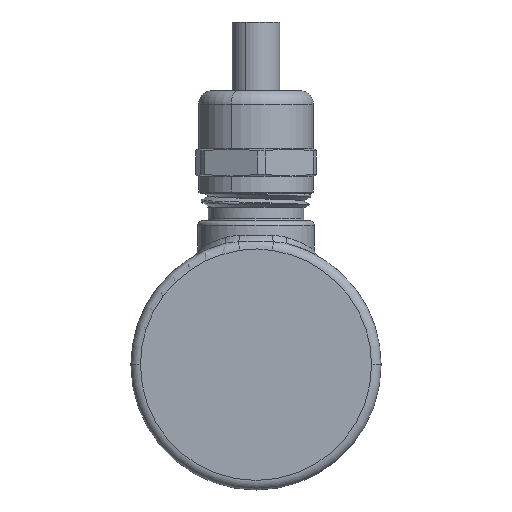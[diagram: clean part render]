
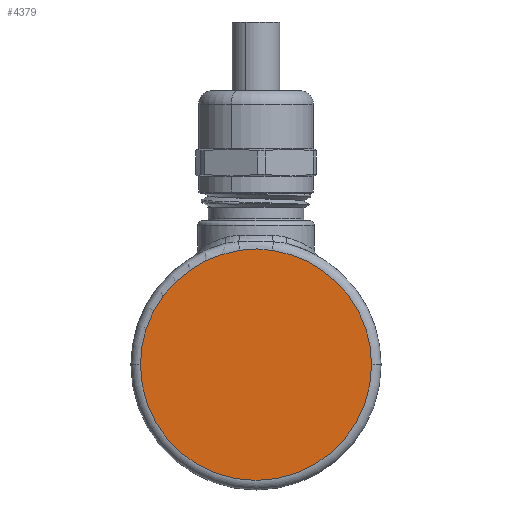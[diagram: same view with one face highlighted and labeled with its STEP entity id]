
A CAD part, front view. The second image highlights one B-rep face of the part: STEP entity #4379.
In plain terms, the highlighted planar face has unit normal (0, -1, 0).
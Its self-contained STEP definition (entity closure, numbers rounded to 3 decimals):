
#231 = CARTESIAN_POINT ( 'NONE',  ( 0., 0., 18.25 ) ) ;
#529 = CARTESIAN_POINT ( 'NONE',  ( 16.85, 0., 0. ) ) ;
#950 = VERTEX_POINT ( 'NONE', #7509 ) ;
#975 = CARTESIAN_POINT ( 'NONE',  ( 0., 0., 0. ) ) ;
#1008 = ORIENTED_EDGE ( 'NONE', *, *, #10752, .T. ) ;
#1050 = CARTESIAN_POINT ( 'NONE',  ( 0., 0., 0. ) ) ;
#1267 = CARTESIAN_POINT ( 'NONE',  ( 1.584, 0., 16.798 ) ) ;
#1500 = AXIS2_PLACEMENT_3D ( 'NONE', #975, #12517, #6257 ) ;
#1807 = EDGE_CURVE ( 'NONE', #13285, #10069, #10134, .T. ) ;
#1889 = DIRECTION ( 'NONE',  ( 0., -1., 0. ) ) ;
#2234 = CARTESIAN_POINT ( 'NONE',  ( -0.401, 0., 16.908 ) ) ;
#3004 = CIRCLE ( 'NONE', #13195, 16.85 ) ;
#3234 = EDGE_CURVE ( 'NONE', #950, #12044, #3004, .T. ) ;
#3351 = CARTESIAN_POINT ( 'NONE',  ( -2.379, 0., 16.681 ) ) ;
#3583 = DIRECTION ( 'NONE',  ( 0., -1., 0. ) ) ;
#3927 = AXIS2_PLACEMENT_3D ( 'NONE', #231, #3583, #7830 ) ;
#4333 = CARTESIAN_POINT ( 'NONE',  ( -1.589, 0., 16.797 ) ) ;
#4379 = ADVANCED_FACE ( 'NONE', ( #12873 ), #11860, .T. ) ;
#5062 = CIRCLE ( 'NONE', #7733, 16.85 ) ;
#5149 = EDGE_LOOP ( 'NONE', ( #8334, #7113, #13066, #1008 ) ) ;
#5499 = CARTESIAN_POINT ( 'NONE',  ( 0.392, 0., 16.909 ) ) ;
#6257 = DIRECTION ( 'NONE',  ( -1., 0., 0. ) ) ;
#7113 = ORIENTED_EDGE ( 'NONE', *, *, #10656, .T. ) ;
#7509 = CARTESIAN_POINT ( 'NONE',  ( -16.85, 0., 0. ) ) ;
#7733 = AXIS2_PLACEMENT_3D ( 'NONE', #1050, #1889, #13564 ) ;
#7830 = DIRECTION ( 'NONE',  ( -1., 0., 0. ) ) ;
#8334 = ORIENTED_EDGE ( 'NONE', *, *, #1807, .T. ) ;
#8564 = CARTESIAN_POINT ( 'NONE',  ( -1.984, 0., 16.738 ) ) ;
#9331 = CARTESIAN_POINT ( 'NONE',  ( 0., 0., 0. ) ) ;
#10069 = VERTEX_POINT ( 'NONE', #12467 ) ;
#10134 = B_SPLINE_CURVE_WITH_KNOTS ( 'NONE', 3,
 ( #12997, #12924, #1267, #11906, #5499, #2234, #11979, #4333, #8564, #3351 ),
 .UNSPECIFIED., .F., .F.,
 ( 4, 2, 2, 2, 4 ),
 ( 0., 0.001, 0.002, 0.004, 0.005 ),
 .UNSPECIFIED. ) ;
#10656 = EDGE_CURVE ( 'NONE', #10069, #950, #13482, .T. ) ;
#10752 = EDGE_CURVE ( 'NONE', #12044, #13285, #5062, .T. ) ;
#11860 = PLANE ( 'NONE',  #3927 ) ;
#11906 = CARTESIAN_POINT ( 'NONE',  ( 0.789, 0., 16.883 ) ) ;
#11979 = CARTESIAN_POINT ( 'NONE',  ( -0.797, 0., 16.883 ) ) ;
#12044 = VERTEX_POINT ( 'NONE', #529 ) ;
#12467 = CARTESIAN_POINT ( 'NONE',  ( -2.379, 0., 16.681 ) ) ;
#12517 = DIRECTION ( 'NONE',  ( 0., -1., 0. ) ) ;
#12873 = FACE_OUTER_BOUND ( 'NONE', #5149, .T. ) ;
#12924 = CARTESIAN_POINT ( 'NONE',  ( 1.982, 0., 16.738 ) ) ;
#12997 = CARTESIAN_POINT ( 'NONE',  ( 2.379, 0., 16.681 ) ) ;
#13066 = ORIENTED_EDGE ( 'NONE', *, *, #3234, .T. ) ;
#13114 = CARTESIAN_POINT ( 'NONE',  ( 2.379, 0., 16.681 ) ) ;
#13195 = AXIS2_PLACEMENT_3D ( 'NONE', #9331, #13560, #13761 ) ;
#13285 = VERTEX_POINT ( 'NONE', #13114 ) ;
#13482 = CIRCLE ( 'NONE', #1500, 16.85 ) ;
#13560 = DIRECTION ( 'NONE',  ( 0., -1., 0. ) ) ;
#13564 = DIRECTION ( 'NONE',  ( -1., 0., 0. ) ) ;
#13761 = DIRECTION ( 'NONE',  ( -1., 0., 0. ) ) ;
